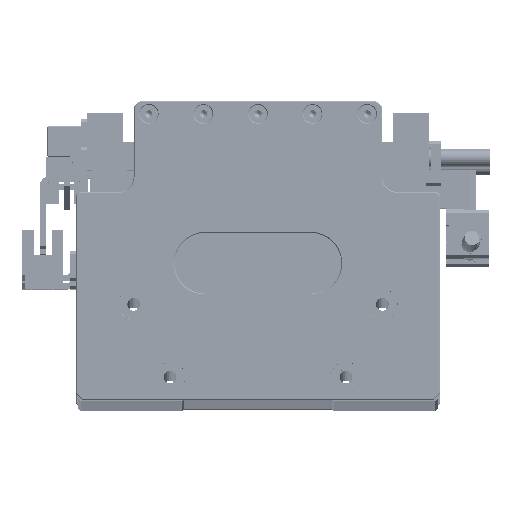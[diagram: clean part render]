
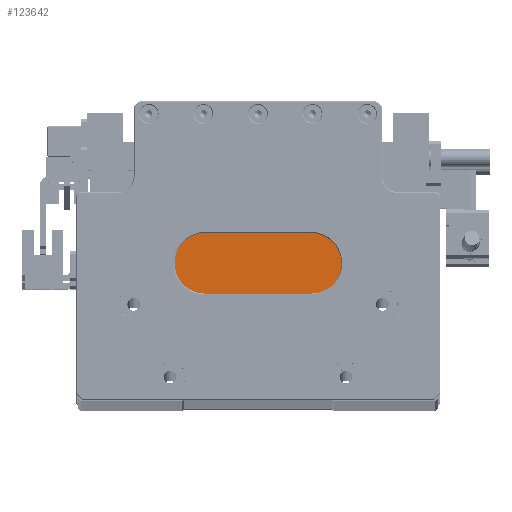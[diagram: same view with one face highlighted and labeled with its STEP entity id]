
A CAD part, top view. The second image highlights one B-rep face of the part: STEP entity #123642.
In plain terms, the highlighted planar face has unit normal (0, 0, 1).
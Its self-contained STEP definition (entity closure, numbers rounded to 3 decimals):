
#192 = DIRECTION ( 'NONE',  ( 1., 0., 0. ) ) ;
#1080 = DIRECTION ( 'NONE',  ( 0., 1., 0. ) ) ;
#1663 = AXIS2_PLACEMENT_3D ( 'NONE', #113001, #51648, #123391 ) ;
#4507 = EDGE_CURVE ( 'NONE', #111875, #123209, #23533, .T. ) ;
#5024 = DIRECTION ( 'NONE',  ( -1., 0., 0. ) ) ;
#6666 = CARTESIAN_POINT ( 'NONE',  ( 13.868, -17.023, 340. ) ) ;
#8134 = DIRECTION ( 'NONE',  ( 1., 0., 0. ) ) ;
#10407 = DIRECTION ( 'NONE',  ( -1., 0., 0. ) ) ;
#11053 = ORIENTED_EDGE ( 'NONE', *, *, #123313, .T. ) ;
#11656 = ORIENTED_EDGE ( 'NONE', *, *, #22348, .T. ) ;
#11955 = EDGE_CURVE ( 'NONE', #74353, #118302, #32286, .T. ) ;
#13833 = LINE ( 'NONE', #122843, #64977 ) ;
#14177 = CARTESIAN_POINT ( 'NONE',  ( 25.168, -49.023, 340. ) ) ;
#14233 = DIRECTION ( 'NONE',  ( 0., 0., 1. ) ) ;
#14907 = AXIS2_PLACEMENT_3D ( 'NONE', #126620, #14233, #85729 ) ;
#19421 = CARTESIAN_POINT ( 'NONE',  ( 4.118, -17.023, 340. ) ) ;
#19673 = DIRECTION ( 'NONE',  ( 0., -1., 0. ) ) ;
#22138 = CIRCLE ( 'NONE', #1663, 1.25 ) ;
#22348 = EDGE_CURVE ( 'NONE', #31500, #38023, #22138, .T. ) ;
#22658 = FACE_OUTER_BOUND ( 'NONE', #50626, .T. ) ;
#23396 = DIRECTION ( 'NONE',  ( 0., 0., -1. ) ) ;
#23533 = LINE ( 'NONE', #91201, #102025 ) ;
#25517 = ORIENTED_EDGE ( 'NONE', *, *, #81377, .T. ) ;
#27656 = ORIENTED_EDGE ( 'NONE', *, *, #81692, .T. ) ;
#31500 = VERTEX_POINT ( 'NONE', #121304 ) ;
#32286 = LINE ( 'NONE', #72571, #65889 ) ;
#35744 = CARTESIAN_POINT ( 'NONE',  ( -12.132, -17.023, 340. ) ) ;
#37890 = ORIENTED_EDGE ( 'NONE', *, *, #125756, .T. ) ;
#38023 = VERTEX_POINT ( 'NONE', #43072 ) ;
#38284 = VECTOR ( 'NONE', #43211, 1000. ) ;
#40767 = CARTESIAN_POINT ( 'NONE',  ( -34.432, -17.023, 340. ) ) ;
#42778 = CARTESIAN_POINT ( 'NONE',  ( -4.632, -17.023, 340. ) ) ;
#43072 = CARTESIAN_POINT ( 'NONE',  ( -10.882, -17.023, 340. ) ) ;
#43147 = VERTEX_POINT ( 'NONE', #19421 ) ;
#43169 = VECTOR ( 'NONE', #5024, 1000. ) ;
#43211 = DIRECTION ( 'NONE',  ( -1., 0., 0. ) ) ;
#44594 = PLANE ( 'NONE',  #14907 ) ;
#45411 = VECTOR ( 'NONE', #98704, 1000. ) ;
#46002 = DIRECTION ( 'NONE',  ( 1., 0., 0. ) ) ;
#50626 = EDGE_LOOP ( 'NONE', ( #75339, #119747, #116962, #93310, #84225, #90728, #25517, #37890 ) ) ;
#51648 = DIRECTION ( 'NONE',  ( 0., 0., -1. ) ) ;
#51920 = VECTOR ( 'NONE', #129489, 1000. ) ;
#57688 = CARTESIAN_POINT ( 'NONE',  ( 13.868, -9.023, 340. ) ) ;
#59105 = CIRCLE ( 'NONE', #82113, 1.25 ) ;
#60525 = AXIS2_PLACEMENT_3D ( 'NONE', #35744, #107360, #46002 ) ;
#60786 = VERTEX_POINT ( 'NONE', #123585 ) ;
#62263 = LINE ( 'NONE', #42778, #38284 ) ;
#64977 = VECTOR ( 'NONE', #192, 1000. ) ;
#65889 = VECTOR ( 'NONE', #1080, 1000. ) ;
#66693 = CARTESIAN_POINT ( 'NONE',  ( -23.132, -9.223, 340. ) ) ;
#67077 = CARTESIAN_POINT ( 'NONE',  ( -34.432, -49.023, 340. ) ) ;
#69086 = VECTOR ( 'NONE', #10407, 1000. ) ;
#69301 = DIRECTION ( 'NONE',  ( 0., 0., -1. ) ) ;
#72571 = CARTESIAN_POINT ( 'NONE',  ( 25.168, -9.023, 340. ) ) ;
#72661 = LINE ( 'NONE', #118875, #45411 ) ;
#73809 = FACE_BOUND ( 'NONE', #131446, .T. ) ;
#74353 = VERTEX_POINT ( 'NONE', #14177 ) ;
#74971 = VERTEX_POINT ( 'NONE', #66693 ) ;
#75124 = ORIENTED_EDGE ( 'NONE', *, *, #116588, .T. ) ;
#75339 = ORIENTED_EDGE ( 'NONE', *, *, #82747, .T. ) ;
#75939 = EDGE_LOOP ( 'NONE', ( #27656, #11656 ) ) ;
#76404 = EDGE_CURVE ( 'NONE', #74971, #127105, #72661, .T. ) ;
#77020 = FACE_BOUND ( 'NONE', #75939, .T. ) ;
#81377 = EDGE_CURVE ( 'NONE', #118302, #125543, #123686, .T. ) ;
#81692 = EDGE_CURVE ( 'NONE', #38023, #31500, #107508, .T. ) ;
#82113 = AXIS2_PLACEMENT_3D ( 'NONE', #84623, #23396, #94989 ) ;
#82747 = EDGE_CURVE ( 'NONE', #60786, #74971, #121735, .T. ) ;
#84225 = ORIENTED_EDGE ( 'NONE', *, *, #124429, .T. ) ;
#84623 = CARTESIAN_POINT ( 'NONE',  ( 2.868, -17.023, 340. ) ) ;
#85729 = DIRECTION ( 'NONE',  ( 1., 0., 0. ) ) ;
#88153 = EDGE_CURVE ( 'NONE', #127105, #111875, #62263, .T. ) ;
#89112 = CARTESIAN_POINT ( 'NONE',  ( 1.618, -17.023, 340. ) ) ;
#90728 = ORIENTED_EDGE ( 'NONE', *, *, #11955, .T. ) ;
#91201 = CARTESIAN_POINT ( 'NONE',  ( -34.432, -9.023, 340. ) ) ;
#93310 = ORIENTED_EDGE ( 'NONE', *, *, #4507, .T. ) ;
#94989 = DIRECTION ( 'NONE',  ( 1., 0., 0. ) ) ;
#98704 = DIRECTION ( 'NONE',  ( 0., -1., 0. ) ) ;
#102025 = VECTOR ( 'NONE', #19673, 1000. ) ;
#102803 = CIRCLE ( 'NONE', #116053, 1.25 ) ;
#107360 = DIRECTION ( 'NONE',  ( 0., 0., -1. ) ) ;
#107508 = CIRCLE ( 'NONE', #60525, 1.25 ) ;
#108268 = CARTESIAN_POINT ( 'NONE',  ( 25.168, -17.023, 340. ) ) ;
#111119 = CARTESIAN_POINT ( 'NONE',  ( -23.132, -17.023, 340. ) ) ;
#111730 = VERTEX_POINT ( 'NONE', #89112 ) ;
#111875 = VERTEX_POINT ( 'NONE', #40767 ) ;
#113001 = CARTESIAN_POINT ( 'NONE',  ( -12.132, -17.023, 340. ) ) ;
#116053 = AXIS2_PLACEMENT_3D ( 'NONE', #130795, #69301, #8134 ) ;
#116588 = EDGE_CURVE ( 'NONE', #43147, #111730, #59105, .T. ) ;
#116962 = ORIENTED_EDGE ( 'NONE', *, *, #88153, .T. ) ;
#118302 = VERTEX_POINT ( 'NONE', #108268 ) ;
#118875 = CARTESIAN_POINT ( 'NONE',  ( -23.132, -9.023, 340. ) ) ;
#119747 = ORIENTED_EDGE ( 'NONE', *, *, #76404, .T. ) ;
#121304 = CARTESIAN_POINT ( 'NONE',  ( -13.382, -17.023, 340. ) ) ;
#121735 = LINE ( 'NONE', #127660, #43169 ) ;
#122763 = CARTESIAN_POINT ( 'NONE',  ( -4.632, -17.023, 340. ) ) ;
#122843 = CARTESIAN_POINT ( 'NONE',  ( -34.632, -49.023, 340. ) ) ;
#123209 = VERTEX_POINT ( 'NONE', #67077 ) ;
#123313 = EDGE_CURVE ( 'NONE', #111730, #43147, #102803, .T. ) ;
#123391 = DIRECTION ( 'NONE',  ( 1., 0., 0. ) ) ;
#123585 = CARTESIAN_POINT ( 'NONE',  ( 13.868, -9.223, 340. ) ) ;
#123642 = ADVANCED_FACE ( 'NONE', ( #22658, #73809, #77020 ), #44594, .T. ) ;
#123686 = LINE ( 'NONE', #122763, #69086 ) ;
#124429 = EDGE_CURVE ( 'NONE', #123209, #74353, #13833, .T. ) ;
#125543 = VERTEX_POINT ( 'NONE', #6666 ) ;
#125756 = EDGE_CURVE ( 'NONE', #125543, #60786, #130539, .T. ) ;
#126620 = CARTESIAN_POINT ( 'NONE',  ( -4.632, -9.023, 340. ) ) ;
#127105 = VERTEX_POINT ( 'NONE', #111119 ) ;
#127660 = CARTESIAN_POINT ( 'NONE',  ( -4.632, -9.223, 340. ) ) ;
#129489 = DIRECTION ( 'NONE',  ( 0., 1., 0. ) ) ;
#130539 = LINE ( 'NONE', #57688, #51920 ) ;
#130795 = CARTESIAN_POINT ( 'NONE',  ( 2.868, -17.023, 340. ) ) ;
#131446 = EDGE_LOOP ( 'NONE', ( #75124, #11053 ) ) ;
